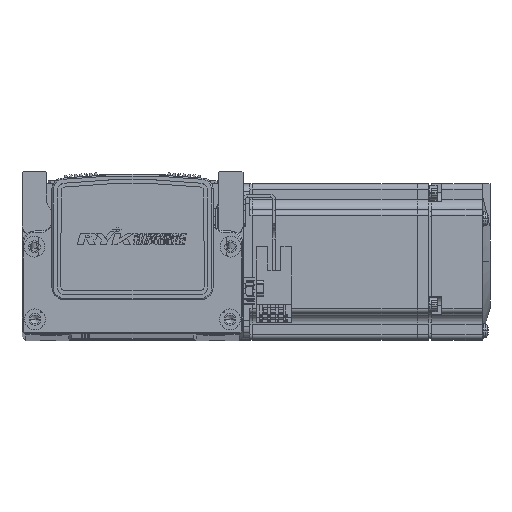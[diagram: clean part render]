
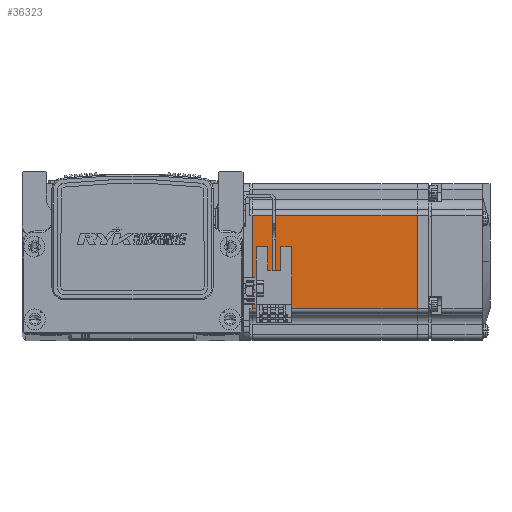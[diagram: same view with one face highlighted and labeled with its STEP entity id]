
A CAD part, top view. The second image highlights one B-rep face of the part: STEP entity #36323.
In plain terms, the highlighted planar face has unit normal (0, 0, 1) as drawn and (0, 0, -1) by its records, which use the part's own axes.
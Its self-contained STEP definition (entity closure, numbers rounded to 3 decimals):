
#1017 = AXIS2_PLACEMENT_3D ( 'NONE', #40978, #40980, #40983 ) ;
#12197 = ORIENTED_EDGE ( 'NONE', *, *, #45291, .T. ) ;
#13602 = FACE_OUTER_BOUND ( 'NONE', #19804, .T. ) ;
#18157 = CARTESIAN_POINT ( 'NONE',  ( -6.5, -18., -30. ) ) ;
#18158 = DIRECTION ( 'NONE',  ( -1., 0., 0. ) ) ;
#19804 = EDGE_LOOP ( 'NONE', ( #38785, #38803, #38812, #12197 ) ) ;
#19915 = VERTEX_POINT ( 'NONE', #58280 ) ;
#19970 = VERTEX_POINT ( 'NONE', #58331 ) ;
#19979 = VERTEX_POINT ( 'NONE', #58334 ) ;
#20010 = VERTEX_POINT ( 'NONE', #58399 ) ;
#23887 = VECTOR ( 'NONE', #18158, 1000. ) ;
#25087 = LINE ( 'NONE', #18157, #23887 ) ;
#36323 = ADVANCED_FACE ( 'NONE', ( #13602 ), #41010, .T. ) ;
#38785 = ORIENTED_EDGE ( 'NONE', *, *, #45347, .T. ) ;
#38803 = ORIENTED_EDGE ( 'NONE', *, *, #45239, .T. ) ;
#38812 = ORIENTED_EDGE ( 'NONE', *, *, #45305, .T. ) ;
#40978 = CARTESIAN_POINT ( 'NONE',  ( -6.5, 25., -30. ) ) ;
#40980 = DIRECTION ( 'NONE',  ( 0., 0., -1. ) ) ;
#40983 = DIRECTION ( 'NONE',  ( -1., 0., 0. ) ) ;
#41010 = PLANE ( 'NONE',  #1017 ) ;
#45239 = EDGE_CURVE ( 'NONE', #19970, #20010, #25087, .T. ) ;
#45291 = EDGE_CURVE ( 'NONE', #19915, #19979, #51817, .T. ) ;
#45305 = EDGE_CURVE ( 'NONE', #20010, #19915, #51789, .T. ) ;
#45347 = EDGE_CURVE ( 'NONE', #19979, #19970, #52016, .T. ) ;
#51048 = CARTESIAN_POINT ( 'NONE',  ( -70.95, 25., -30. ) ) ;
#51059 = CARTESIAN_POINT ( 'NONE',  ( -6.5, 18., -30. ) ) ;
#51063 = DIRECTION ( 'NONE',  ( 1., 0., 0. ) ) ;
#51084 = DIRECTION ( 'NONE',  ( 0., 1., 0. ) ) ;
#51165 = CARTESIAN_POINT ( 'NONE',  ( -7.75, 25., -30. ) ) ;
#51188 = DIRECTION ( 'NONE',  ( 0., -1., 0. ) ) ;
#51785 = VECTOR ( 'NONE', #51063, 1000. ) ;
#51789 = LINE ( 'NONE', #51048, #51918 ) ;
#51817 = LINE ( 'NONE', #51059, #51785 ) ;
#51918 = VECTOR ( 'NONE', #51084, 1000. ) ;
#51978 = VECTOR ( 'NONE', #51188, 1000. ) ;
#52016 = LINE ( 'NONE', #51165, #51978 ) ;
#58280 = CARTESIAN_POINT ( 'NONE',  ( -70.95, 18., -30. ) ) ;
#58331 = CARTESIAN_POINT ( 'NONE',  ( -7.75, -18., -30. ) ) ;
#58334 = CARTESIAN_POINT ( 'NONE',  ( -7.75, 18., -30. ) ) ;
#58399 = CARTESIAN_POINT ( 'NONE',  ( -70.95, -18., -30. ) ) ;
